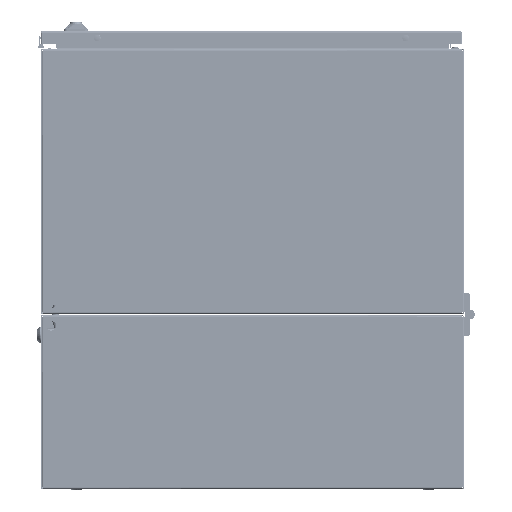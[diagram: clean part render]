
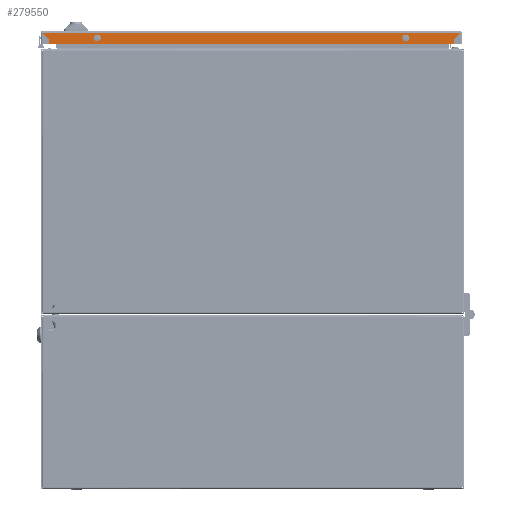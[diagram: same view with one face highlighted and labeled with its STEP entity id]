
A CAD part, front view. The second image highlights one B-rep face of the part: STEP entity #279550.
In plain terms, the highlighted planar face has unit normal (0, -1, 0).
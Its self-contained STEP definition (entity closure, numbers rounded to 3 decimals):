
#1819 = VERTEX_POINT ( 'NONE', #129347 ) ;
#2666 = DIRECTION ( 'NONE',  ( 0., -1., 0. ) ) ;
#3506 = CARTESIAN_POINT ( 'NONE',  ( -296.4, -498.5, 2.1 ) ) ;
#11887 = VECTOR ( 'NONE', #98678, 1000. ) ;
#16657 = ORIENTED_EDGE ( 'NONE', *, *, #205843, .T. ) ;
#18231 = AXIS2_PLACEMENT_3D ( 'NONE', #54999, #218005, #78352 ) ;
#29502 = CARTESIAN_POINT ( 'NONE',  ( 218.5, -498.5, 13.5 ) ) ;
#32953 = AXIS2_PLACEMENT_3D ( 'NONE', #57018, #220030, #80388 ) ;
#39287 = CIRCLE ( 'NONE', #105541, 4. ) ;
#54999 = CARTESIAN_POINT ( 'NONE',  ( 218.5, -498.5, 9.5 ) ) ;
#57018 = CARTESIAN_POINT ( 'NONE',  ( 218.5, -498.5, 9.5 ) ) ;
#59106 = VECTOR ( 'NONE', #178928, 1000. ) ;
#60656 = VERTEX_POINT ( 'NONE', #260692 ) ;
#65326 = LINE ( 'NONE', #102561, #243965 ) ;
#69262 = CARTESIAN_POINT ( 'NONE',  ( 286.5, -498.5, 1.5 ) ) ;
#74296 = CARTESIAN_POINT ( 'NONE',  ( 286.5, -498.5, 18.5 ) ) ;
#78352 = DIRECTION ( 'NONE',  ( 0., 0., 1. ) ) ;
#78738 = DIRECTION ( 'NONE',  ( -0.707, 0., 0.707 ) ) ;
#78762 = AXIS2_PLACEMENT_3D ( 'NONE', #69262, #279059, #139481 ) ;
#80388 = DIRECTION ( 'NONE',  ( 0., 0., 1. ) ) ;
#91738 = VECTOR ( 'NONE', #143569, 1000. ) ;
#98584 = VERTEX_POINT ( 'NONE', #150177 ) ;
#98678 = DIRECTION ( 'NONE',  ( -0.707, 0., -0.707 ) ) ;
#99979 = ORIENTED_EDGE ( 'NONE', *, *, #190996, .T. ) ;
#102561 = CARTESIAN_POINT ( 'NONE',  ( -286.5, -498.5, 18.5 ) ) ;
#103258 = CARTESIAN_POINT ( 'NONE',  ( 218.5, -498.5, 5.5 ) ) ;
#104454 = VECTOR ( 'NONE', #78738, 1000. ) ;
#105541 = AXIS2_PLACEMENT_3D ( 'NONE', #259233, #119698, #282656 ) ;
#113189 = EDGE_LOOP ( 'NONE', ( #286418, #218020 ) ) ;
#113429 = DIRECTION ( 'NONE',  ( 0., 0., -1. ) ) ;
#116930 = VERTEX_POINT ( 'NONE', #3506 ) ;
#117127 = CARTESIAN_POINT ( 'NONE',  ( 296.4, -498.5, 2.1 ) ) ;
#117170 = LINE ( 'NONE', #229516, #164542 ) ;
#119698 = DIRECTION ( 'NONE',  ( 0., -1., 0. ) ) ;
#124567 = CARTESIAN_POINT ( 'NONE',  ( 286.5, -498.5, 12. ) ) ;
#129347 = CARTESIAN_POINT ( 'NONE',  ( -218.5, -498.5, 5.5 ) ) ;
#130104 = ORIENTED_EDGE ( 'NONE', *, *, #155201, .F. ) ;
#138578 = CARTESIAN_POINT ( 'NONE',  ( 286.5, -498.5, 12. ) ) ;
#139481 = DIRECTION ( 'NONE',  ( 0., 0., 1. ) ) ;
#139849 = VERTEX_POINT ( 'NONE', #138578 ) ;
#142073 = CARTESIAN_POINT ( 'NONE',  ( -218.5, -498.5, 9.5 ) ) ;
#143569 = DIRECTION ( 'NONE',  ( 0., 0., 1. ) ) ;
#150177 = CARTESIAN_POINT ( 'NONE',  ( -218.5, -498.5, 13.5 ) ) ;
#155201 = EDGE_CURVE ( 'NONE', #176525, #116930, #244973, .T. ) ;
#161015 = LINE ( 'NONE', #74296, #91738 ) ;
#163442 = EDGE_CURVE ( 'NONE', #288885, #292561, #193016, .T. ) ;
#164542 = VECTOR ( 'NONE', #113429, 1000. ) ;
#165523 = DIRECTION ( 'NONE',  ( 0., 0., -1. ) ) ;
#168965 = ORIENTED_EDGE ( 'NONE', *, *, #213282, .T. ) ;
#174741 = AXIS2_PLACEMENT_3D ( 'NONE', #142073, #2666, #165523 ) ;
#176525 = VERTEX_POINT ( 'NONE', #117127 ) ;
#176979 = FACE_BOUND ( 'NONE', #256691, .T. ) ;
#178928 = DIRECTION ( 'NONE',  ( -1., 0., 0. ) ) ;
#190224 = ORIENTED_EDGE ( 'NONE', *, *, #290917, .F. ) ;
#190996 = EDGE_CURVE ( 'NONE', #176525, #139849, #228336, .T. ) ;
#193016 = CIRCLE ( 'NONE', #32953, 4. ) ;
#205843 = EDGE_CURVE ( 'NONE', #231591, #259499, #65326, .T. ) ;
#212993 = EDGE_CURVE ( 'NONE', #139849, #231591, #161015, .T. ) ;
#213282 = EDGE_CURVE ( 'NONE', #259499, #60656, #117170, .T. ) ;
#218005 = DIRECTION ( 'NONE',  ( 0., -1., 0. ) ) ;
#218020 = ORIENTED_EDGE ( 'NONE', *, *, #163442, .F. ) ;
#218745 = DIRECTION ( 'NONE',  ( -1., 0., 0. ) ) ;
#220030 = DIRECTION ( 'NONE',  ( 0., -1., 0. ) ) ;
#220158 = EDGE_CURVE ( 'NONE', #1819, #98584, #231948, .T. ) ;
#228336 = LINE ( 'NONE', #124567, #104454 ) ;
#229516 = CARTESIAN_POINT ( 'NONE',  ( -286.5, -498.5, 18.5 ) ) ;
#231591 = VERTEX_POINT ( 'NONE', #294007 ) ;
#231948 = CIRCLE ( 'NONE', #174741, 4. ) ;
#237349 = EDGE_LOOP ( 'NONE', ( #130104, #99979, #249597, #16657, #168965, #280419 ) ) ;
#238187 = CARTESIAN_POINT ( 'NONE',  ( -286.5, -498.5, 12. ) ) ;
#243965 = VECTOR ( 'NONE', #218745, 1000. ) ;
#244973 = LINE ( 'NONE', #295039, #59106 ) ;
#245299 = ORIENTED_EDGE ( 'NONE', *, *, #220158, .F. ) ;
#246295 = FACE_BOUND ( 'NONE', #113189, .T. ) ;
#249597 = ORIENTED_EDGE ( 'NONE', *, *, #212993, .T. ) ;
#256691 = EDGE_LOOP ( 'NONE', ( #245299, #190224 ) ) ;
#259233 = CARTESIAN_POINT ( 'NONE',  ( -218.5, -498.5, 9.5 ) ) ;
#259499 = VERTEX_POINT ( 'NONE', #293212 ) ;
#259522 = LINE ( 'NONE', #238187, #11887 ) ;
#260619 = EDGE_CURVE ( 'NONE', #60656, #116930, #259522, .T. ) ;
#260692 = CARTESIAN_POINT ( 'NONE',  ( -286.5, -498.5, 12. ) ) ;
#263806 = EDGE_CURVE ( 'NONE', #292561, #288885, #269234, .T. ) ;
#269234 = CIRCLE ( 'NONE', #18231, 4. ) ;
#279059 = DIRECTION ( 'NONE',  ( 0., 1., 0. ) ) ;
#279550 = ADVANCED_FACE ( 'NONE', ( #246295, #176979, #293591 ), #301445, .F. ) ;
#280419 = ORIENTED_EDGE ( 'NONE', *, *, #260619, .T. ) ;
#282656 = DIRECTION ( 'NONE',  ( 0., 0., -1. ) ) ;
#286418 = ORIENTED_EDGE ( 'NONE', *, *, #263806, .F. ) ;
#288885 = VERTEX_POINT ( 'NONE', #29502 ) ;
#290917 = EDGE_CURVE ( 'NONE', #98584, #1819, #39287, .T. ) ;
#292561 = VERTEX_POINT ( 'NONE', #103258 ) ;
#293212 = CARTESIAN_POINT ( 'NONE',  ( -286.5, -498.5, 18.5 ) ) ;
#293591 = FACE_OUTER_BOUND ( 'NONE', #237349, .T. ) ;
#294007 = CARTESIAN_POINT ( 'NONE',  ( 286.5, -498.5, 18.5 ) ) ;
#295039 = CARTESIAN_POINT ( 'NONE',  ( 286.5, -498.5, 2.1 ) ) ;
#301445 = PLANE ( 'NONE',  #78762 ) ;
